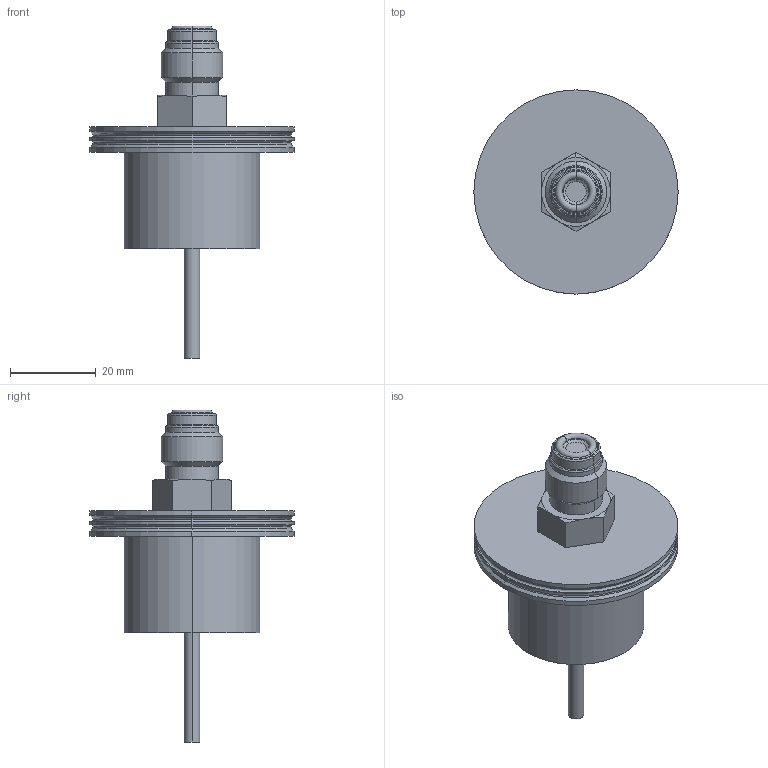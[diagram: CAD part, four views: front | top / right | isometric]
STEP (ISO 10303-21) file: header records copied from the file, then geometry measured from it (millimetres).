
FILE_DESCRIPTION (( 'STEP AP214' ), '1' );
FILE_NAME ('PV48W VCR WIRES.STEP', '2008-01-14T13:23:08', ( 'Authorized User' ), ( 'Precision Sensors' ), 'SwSTEP 2.0', 'SolidWorks 2006303', '' );
FILE_SCHEMA (( 'AUTOMOTIVE_DESIGN' ));
Length unit declared in the file: inch
Products named in the file (1): PV48W VCR WIRES
Bounding box: 47.5 x 47.5 x 77.21 mm (x, y, z)
Volume: 31737.8 mm3; surface area: 8239.8 mm2
Topology: 1 solids, 1 shells, 70 faces, 148 edges, 87 vertices
Faces by surface type: torus 20, cylinder 18, cone 17, plane 15
Entity records: 1920 total; most frequent: DIRECTION 367, CARTESIAN_POINT 342, ORIENTED_EDGE 296, AXIS2_PLACEMENT_3D 160, EDGE_CURVE 148, CIRCLE 89, VERTEX_POINT 87, EDGE_LOOP 77
